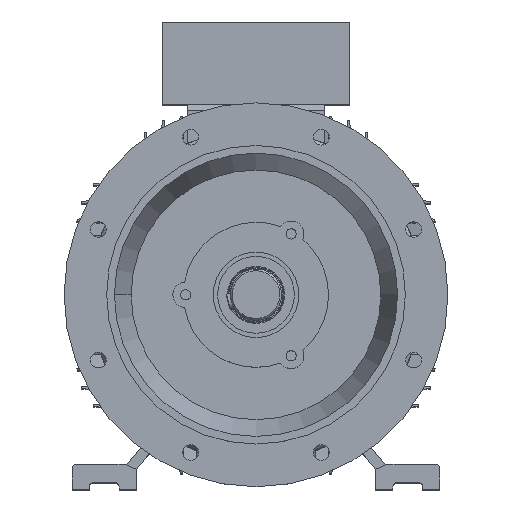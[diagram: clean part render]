
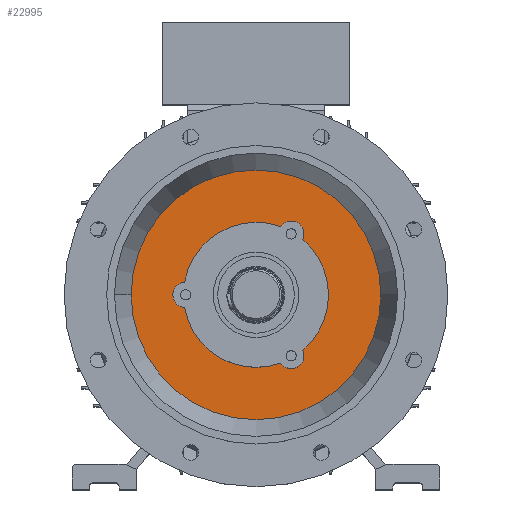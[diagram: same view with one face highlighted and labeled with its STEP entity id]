
A CAD part, top view. The second image highlights one B-rep face of the part: STEP entity #22995.
In plain terms, the highlighted planar face has unit normal (0, 0, 1) as drawn and (-1, 0, 0) by its records, which use the part's own axes.
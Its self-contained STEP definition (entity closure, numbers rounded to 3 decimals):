
#2748 = CARTESIAN_POINT ( 'NONE',  ( 54., 0., 0. ) ) ;
#2753 = DIRECTION ( 'NONE',  ( 0., 0., 1. ) ) ;
#2757 = DIRECTION ( 'NONE',  ( -1., 0., 0. ) ) ;
#2764 = CARTESIAN_POINT ( 'NONE',  ( 54., -41.25, -71.447 ) ) ;
#2765 = DIRECTION ( 'NONE',  ( 0., 0., -1. ) ) ;
#2769 = DIRECTION ( 'NONE',  ( -1., 0., 0. ) ) ;
#3786 = EDGE_CURVE ( 'NONE', #14373, #14085, #15001, .T. ) ;
#3799 = EDGE_CURVE ( 'NONE', #13967, #14544, #15029, .T. ) ;
#3878 = EDGE_CURVE ( 'NONE', #14325, #14373, #15167, .T. ) ;
#3893 = EDGE_CURVE ( 'NONE', #14063, #14072, #15222, .T. ) ;
#3906 = EDGE_CURVE ( 'NONE', #14434, #14325, #15478, .T. ) ;
#3921 = EDGE_CURVE ( 'NONE', #14544, #14113, #15453, .T. ) ;
#3974 = EDGE_CURVE ( 'NONE', #13972, #14434, #15501, .T. ) ;
#6275 = AXIS2_PLACEMENT_3D ( 'NONE', #20028, #20042, #20022 ) ;
#7299 = ORIENTED_EDGE ( 'NONE', *, *, #3893, .T. ) ;
#7306 = ORIENTED_EDGE ( 'NONE', *, *, #13488, .F. ) ;
#7352 = ORIENTED_EDGE ( 'NONE', *, *, #3799, .F. ) ;
#7355 = ORIENTED_EDGE ( 'NONE', *, *, #3974, .F. ) ;
#7357 = ORIENTED_EDGE ( 'NONE', *, *, #3906, .F. ) ;
#7364 = ORIENTED_EDGE ( 'NONE', *, *, #3878, .F. ) ;
#7374 = ORIENTED_EDGE ( 'NONE', *, *, #3921, .F. ) ;
#7387 = ORIENTED_EDGE ( 'NONE', *, *, #13423, .T. ) ;
#7388 = ORIENTED_EDGE ( 'NONE', *, *, #3786, .F. ) ;
#7394 = ORIENTED_EDGE ( 'NONE', *, *, #13416, .F. ) ;
#8118 = DIRECTION ( 'NONE',  ( -1., 0., 0. ) ) ;
#8124 = DIRECTION ( 'NONE',  ( 0., 0., 1. ) ) ;
#8147 = CARTESIAN_POINT ( 'NONE',  ( 54., 0., 0. ) ) ;
#8185 = DIRECTION ( 'NONE',  ( -1., 0., 0. ) ) ;
#8193 = CARTESIAN_POINT ( 'NONE',  ( 54., 0., 0. ) ) ;
#8202 = DIRECTION ( 'NONE',  ( 0., -1., 0. ) ) ;
#8380 = DIRECTION ( 'NONE',  ( -1., 0., 0. ) ) ;
#8388 = CARTESIAN_POINT ( 'NONE',  ( 54., -41.25, -71.447 ) ) ;
#8434 = DIRECTION ( 'NONE',  ( 0., 0., -1. ) ) ;
#13416 = EDGE_CURVE ( 'NONE', #14113, #13972, #26635, .T. ) ;
#13423 = EDGE_CURVE ( 'NONE', #14072, #14063, #26634, .T. ) ;
#13488 = EDGE_CURVE ( 'NONE', #14085, #13967, #26666, .T. ) ;
#13967 = VERTEX_POINT ( 'NONE', #22042 ) ;
#13972 = VERTEX_POINT ( 'NONE', #22101 ) ;
#14063 = VERTEX_POINT ( 'NONE', #22199 ) ;
#14072 = VERTEX_POINT ( 'NONE', #22228 ) ;
#14085 = VERTEX_POINT ( 'NONE', #22210 ) ;
#14113 = VERTEX_POINT ( 'NONE', #22276 ) ;
#14325 = VERTEX_POINT ( 'NONE', #22453 ) ;
#14373 = VERTEX_POINT ( 'NONE', #22514 ) ;
#14434 = VERTEX_POINT ( 'NONE', #22520 ) ;
#14544 = VERTEX_POINT ( 'NONE', #22614 ) ;
#15001 = CIRCLE ( 'NONE', #25642, 15. ) ;
#15029 = CIRCLE ( 'NONE', #25644, 85. ) ;
#15167 = CIRCLE ( 'NONE', #25723, 85. ) ;
#15222 = CIRCLE ( 'NONE', #25731, 146.346 ) ;
#15453 = CIRCLE ( 'NONE', #25719, 15. ) ;
#15478 = CIRCLE ( 'NONE', #25681, 15. ) ;
#15501 = CIRCLE ( 'NONE', #25683, 85. ) ;
#16697 = FACE_OUTER_BOUND ( 'NONE', #29015, .T. ) ;
#16698 = FACE_BOUND ( 'NONE', #28977, .T. ) ;
#17321 = CARTESIAN_POINT ( 'NONE',  ( 54., 0., 0. ) ) ;
#17323 = DIRECTION ( 'NONE',  ( -1., 0., 0. ) ) ;
#17329 = DIRECTION ( 'NONE',  ( 0., 0., 1. ) ) ;
#17360 = CARTESIAN_POINT ( 'NONE',  ( 54., 0., 0. ) ) ;
#17368 = DIRECTION ( 'NONE',  ( -1., 0., 0. ) ) ;
#17369 = DIRECTION ( 'NONE',  ( 0., 0., -1. ) ) ;
#17371 = DIRECTION ( 'NONE',  ( 0., 0., -1. ) ) ;
#17377 = DIRECTION ( 'NONE',  ( -1., 0., 0. ) ) ;
#17378 = DIRECTION ( 'NONE',  ( 0., -1., 0. ) ) ;
#17380 = CARTESIAN_POINT ( 'NONE',  ( 54., 82.5, 0. ) ) ;
#17382 = DIRECTION ( 'NONE',  ( -1., 0., 0. ) ) ;
#17387 = CARTESIAN_POINT ( 'NONE',  ( 54., -41.25, 71.447 ) ) ;
#17447 = DIRECTION ( 'NONE',  ( 0., 0., 1. ) ) ;
#17456 = CARTESIAN_POINT ( 'NONE',  ( 54., 0., 0. ) ) ;
#17458 = DIRECTION ( 'NONE',  ( -1., 0., 0. ) ) ;
#20022 = DIRECTION ( 'NONE',  ( 0., 0., -1. ) ) ;
#20028 = CARTESIAN_POINT ( 'NONE',  ( 54., 146.346, 0. ) ) ;
#20042 = DIRECTION ( 'NONE',  ( 1., 0., 0. ) ) ;
#20048 = PLANE ( 'NONE',  #6275 ) ;
#22042 = CARTESIAN_POINT ( 'NONE',  ( 54., -54.788, -64.987 ) ) ;
#22101 = CARTESIAN_POINT ( 'NONE',  ( 54., 0., 85. ) ) ;
#22199 = CARTESIAN_POINT ( 'NONE',  ( 54., -146.346, 0. ) ) ;
#22210 = CARTESIAN_POINT ( 'NONE',  ( 54., -41.25, -86.447 ) ) ;
#22228 = CARTESIAN_POINT ( 'NONE',  ( 54., 146.346, 0. ) ) ;
#22276 = CARTESIAN_POINT ( 'NONE',  ( 54., -28.887, 79.941 ) ) ;
#22453 = CARTESIAN_POINT ( 'NONE',  ( 54., 83.674, -14.954 ) ) ;
#22514 = CARTESIAN_POINT ( 'NONE',  ( 54., -28.887, -79.941 ) ) ;
#22520 = CARTESIAN_POINT ( 'NONE',  ( 54., 83.674, 14.954 ) ) ;
#22614 = CARTESIAN_POINT ( 'NONE',  ( 54., -54.788, 64.987 ) ) ;
#22995 = ADVANCED_FACE ( 'NONE', ( #16697, #16698 ), #20048, .F. ) ;
#25642 = AXIS2_PLACEMENT_3D ( 'NONE', #2764, #2757, #2765 ) ;
#25644 = AXIS2_PLACEMENT_3D ( 'NONE', #2748, #2769, #2753 ) ;
#25681 = AXIS2_PLACEMENT_3D ( 'NONE', #17380, #17382, #17371 ) ;
#25683 = AXIS2_PLACEMENT_3D ( 'NONE', #17456, #17458, #17447 ) ;
#25719 = AXIS2_PLACEMENT_3D ( 'NONE', #17387, #17368, #17369 ) ;
#25723 = AXIS2_PLACEMENT_3D ( 'NONE', #17321, #17323, #17329 ) ;
#25731 = AXIS2_PLACEMENT_3D ( 'NONE', #17360, #17377, #17378 ) ;
#25949 = AXIS2_PLACEMENT_3D ( 'NONE', #8147, #8118, #8124 ) ;
#25972 = AXIS2_PLACEMENT_3D ( 'NONE', #8193, #8185, #8202 ) ;
#26019 = AXIS2_PLACEMENT_3D ( 'NONE', #8388, #8380, #8434 ) ;
#26634 = CIRCLE ( 'NONE', #25972, 146.346 ) ;
#26635 = CIRCLE ( 'NONE', #25949, 85. ) ;
#26666 = CIRCLE ( 'NONE', #26019, 15. ) ;
#28977 = EDGE_LOOP ( 'NONE', ( #7374, #7352, #7306, #7388, #7364, #7357, #7355, #7394 ) ) ;
#29015 = EDGE_LOOP ( 'NONE', ( #7299, #7387 ) ) ;
